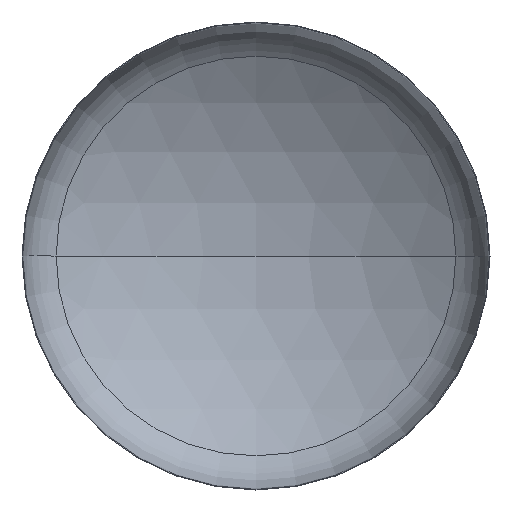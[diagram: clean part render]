
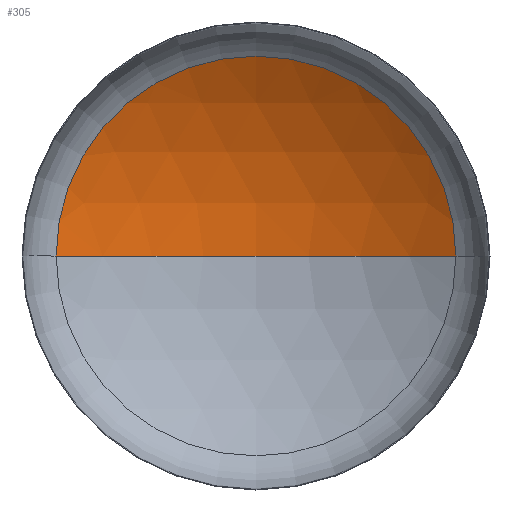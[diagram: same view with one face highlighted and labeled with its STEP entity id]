
A CAD part, front view. The second image highlights one B-rep face of the part: STEP entity #305.
In plain terms, the highlighted spherical face has radius 4400 mm.
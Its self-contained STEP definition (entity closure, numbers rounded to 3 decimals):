
#3 = AXIS2_PLACEMENT_3D ( 'NONE', #65, #277, #95 ) ;
#16 = CARTESIAN_POINT ( 'NONE',  ( 2349.142, 739.49, 0. ) ) ;
#29 = CARTESIAN_POINT ( 'NONE',  ( 0., 1419.069, 0. ) ) ;
#43 = VERTEX_POINT ( 'NONE', #16 ) ;
#47 = EDGE_CURVE ( 'NONE', #338, #43, #145, .T. ) ;
#55 = AXIS2_PLACEMENT_3D ( 'NONE', #284, #70, #295 ) ;
#65 = CARTESIAN_POINT ( 'NONE',  ( 0., -2980.931, 0. ) ) ;
#70 = DIRECTION ( 'NONE',  ( 0., 0., -1. ) ) ;
#95 = DIRECTION ( 'NONE',  ( 1., 0., 0. ) ) ;
#112 = ORIENTED_EDGE ( 'NONE', *, *, #162, .T. ) ;
#124 = ORIENTED_EDGE ( 'NONE', *, *, #336, .F. ) ;
#138 = CARTESIAN_POINT ( 'NONE',  ( 0., 739.49, 0. ) ) ;
#145 = CIRCLE ( 'NONE', #214, 4400. ) ;
#154 = CIRCLE ( 'NONE', #3, 4400. ) ;
#162 = EDGE_CURVE ( 'NONE', #43, #203, #308, .T. ) ;
#164 = DIRECTION ( 'NONE',  ( 1., 0., 0. ) ) ;
#172 = CARTESIAN_POINT ( 'NONE',  ( 0., -2980.931, 0. ) ) ;
#177 = AXIS2_PLACEMENT_3D ( 'NONE', #138, #354, #164 ) ;
#203 = VERTEX_POINT ( 'NONE', #225 ) ;
#204 = DIRECTION ( 'NONE',  ( -1., 0., 0. ) ) ;
#214 = AXIS2_PLACEMENT_3D ( 'NONE', #172, #397, #204 ) ;
#225 = CARTESIAN_POINT ( 'NONE',  ( -2349.142, 739.49, 0. ) ) ;
#277 = DIRECTION ( 'NONE',  ( 0., 0., 1. ) ) ;
#284 = CARTESIAN_POINT ( 'NONE',  ( 0., -2980.931, 0. ) ) ;
#295 = DIRECTION ( 'NONE',  ( -1., 0., 0. ) ) ;
#305 = ADVANCED_FACE ( 'NONE', ( #340 ), #331, .F. ) ;
#308 = CIRCLE ( 'NONE', #177, 2349.142 ) ;
#331 = SPHERICAL_SURFACE ( 'NONE', #55, 4400. ) ;
#336 = EDGE_CURVE ( 'NONE', #338, #203, #154, .T. ) ;
#338 = VERTEX_POINT ( 'NONE', #29 ) ;
#340 = FACE_OUTER_BOUND ( 'NONE', #400, .T. ) ;
#354 = DIRECTION ( 'NONE',  ( 0., -1., 0. ) ) ;
#397 = DIRECTION ( 'NONE',  ( 0., 0., -1. ) ) ;
#400 = EDGE_LOOP ( 'NONE', ( #124, #401, #112 ) ) ;
#401 = ORIENTED_EDGE ( 'NONE', *, *, #47, .T. ) ;
